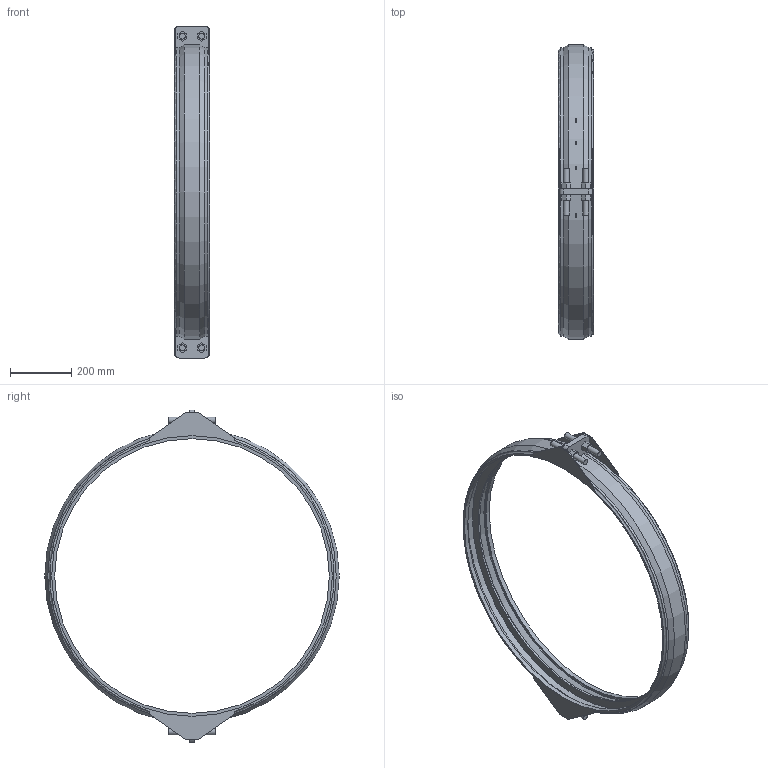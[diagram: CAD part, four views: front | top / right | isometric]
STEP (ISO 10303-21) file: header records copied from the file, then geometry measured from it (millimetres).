
FILE_DESCRIPTION(/* description */ ('VIC SS RESTRAINED COUPLING STYLE 234S (FLEX) (BRS)','CAx-IF Rec.Pracs.---Representation and Presentation of Product Manufacturing Information (PMI)---4.0---2014-10-13'),/* implementation_level */ '2;1');
FILE_NAME(/* name */ 'C:\Users\kkamble\AppData\Roaming\Autodesk\ApplicationPlugins\Back Up\Victaulic_VBSP_Coupling Flexible Restrained_Style 234S (BRS)\Victaulic_VBSP_Coupling Flexible Restrained_Style 234S (BRS)_50psi_36 (900).stp',/* time_stamp */ '2020-09-22T18:41:35+05:00',/* author */ ('Vjadhav'),/* organization */ ('Victaulic'),/* preprocessor_version */ 'ST-DEVELOPER v17.2',/* originating_system */ 'Autodesk Inventor 2019',/* authorisation */ '');
FILE_SCHEMA (('AP242_MANAGED_MODEL_BASED_3D_ENGINEERING_MIM_LF { 1 0 10303 442 1 1 4 }'));
Length unit declared in the file: inch
Products named in the file (1): Style_234S_Type_2_50psi-36.0
Bounding box: 114.3 x 959.35 x 1082.04 mm (x, y, z)
Volume: 3327853.7 mm3; surface area: 1116942.9 mm2
Topology: 1 solids, 1 shells, 151 faces, 397 edges, 268 vertices
Faces by surface type: plane 100, cylinder 39, torus 6, cone 6
Full cylindrical faces by diameter (mm): 19.05 x8, 895.35 x1, 914.4 x2, 949.828 x2
Entity records: 5106 total; most frequent: CARTESIAN_POINT 1010, DIRECTION 813, ORIENTED_EDGE 794, EDGE_CURVE 397, AXIS2_PLACEMENT_3D 275, VERTEX_POINT 268, LINE 263, VECTOR 263
